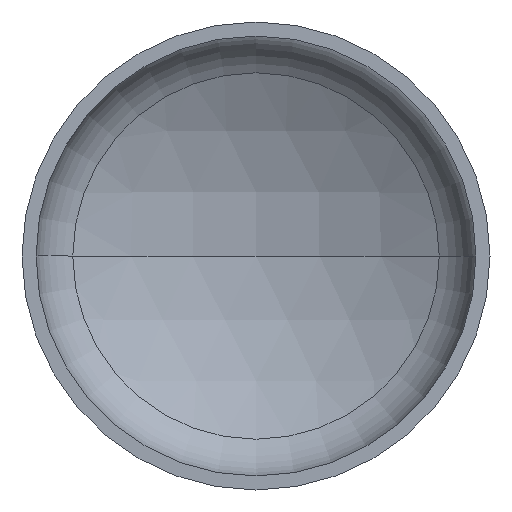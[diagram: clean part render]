
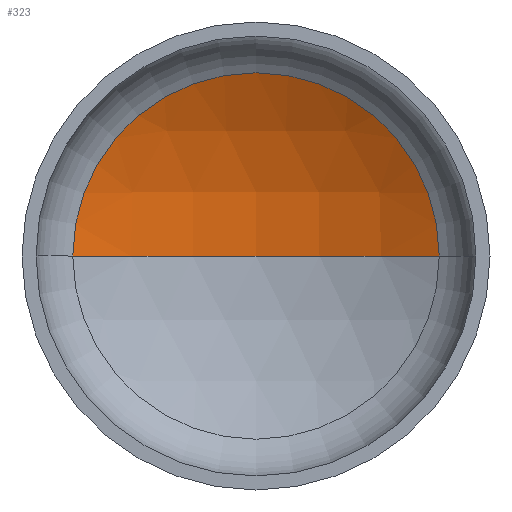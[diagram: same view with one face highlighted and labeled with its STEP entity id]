
A CAD part, front view. The second image highlights one B-rep face of the part: STEP entity #323.
In plain terms, the highlighted spherical face has radius 3200 mm.
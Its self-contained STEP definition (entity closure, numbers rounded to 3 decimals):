
#9 = AXIS2_PLACEMENT_3D ( 'NONE', #95, #177, #393 ) ;
#15 = CARTESIAN_POINT ( 'NONE',  ( 0., 1020.671, 0. ) ) ;
#17 = DIRECTION ( 'NONE',  ( 1., 0., 0. ) ) ;
#38 = AXIS2_PLACEMENT_3D ( 'NONE', #152, #243, #17 ) ;
#39 = VERTEX_POINT ( 'NONE', #293 ) ;
#40 = AXIS2_PLACEMENT_3D ( 'NONE', #204, #206, #377 ) ;
#42 = AXIS2_PLACEMENT_3D ( 'NONE', #217, #213, #210 ) ;
#78 = EDGE_CURVE ( 'NONE', #148, #39, #351, .T. ) ;
#82 = EDGE_CURVE ( 'NONE', #106, #148, #341, .T. ) ;
#83 = EDGE_LOOP ( 'NONE', ( #130, #161, #123 ) ) ;
#91 = EDGE_CURVE ( 'NONE', #106, #39, #275, .T. ) ;
#95 = CARTESIAN_POINT ( 'NONE',  ( 0., -2179.329, 0. ) ) ;
#106 = VERTEX_POINT ( 'NONE', #15 ) ;
#123 = ORIENTED_EDGE ( 'NONE', *, *, #78, .T. ) ;
#130 = ORIENTED_EDGE ( 'NONE', *, *, #91, .F. ) ;
#148 = VERTEX_POINT ( 'NONE', #209 ) ;
#152 = CARTESIAN_POINT ( 'NONE',  ( 0., -2179.329, 0. ) ) ;
#161 = ORIENTED_EDGE ( 'NONE', *, *, #82, .T. ) ;
#177 = DIRECTION ( 'NONE',  ( 0., 0., -1. ) ) ;
#194 = FACE_OUTER_BOUND ( 'NONE', #83, .T. ) ;
#204 = CARTESIAN_POINT ( 'NONE',  ( 0., -2179.329, 0. ) ) ;
#206 = DIRECTION ( 'NONE',  ( 0., 0., -1. ) ) ;
#209 = CARTESIAN_POINT ( 'NONE',  ( 1565.957, 611.33, 0. ) ) ;
#210 = DIRECTION ( 'NONE',  ( 1., 0., 0. ) ) ;
#213 = DIRECTION ( 'NONE',  ( 0., -1., 0. ) ) ;
#217 = CARTESIAN_POINT ( 'NONE',  ( 0., 611.33, 0. ) ) ;
#243 = DIRECTION ( 'NONE',  ( 0., 0., 1. ) ) ;
#275 = CIRCLE ( 'NONE', #38, 3200. ) ;
#293 = CARTESIAN_POINT ( 'NONE',  ( -1565.957, 611.33, 0. ) ) ;
#323 = ADVANCED_FACE ( 'NONE', ( #194 ), #372, .F. ) ;
#341 = CIRCLE ( 'NONE', #40, 3200. ) ;
#351 = CIRCLE ( 'NONE', #42, 1565.957 ) ;
#372 = SPHERICAL_SURFACE ( 'NONE', #9, 3200. ) ;
#377 = DIRECTION ( 'NONE',  ( -1., 0., 0. ) ) ;
#393 = DIRECTION ( 'NONE',  ( -1., 0., 0. ) ) ;
